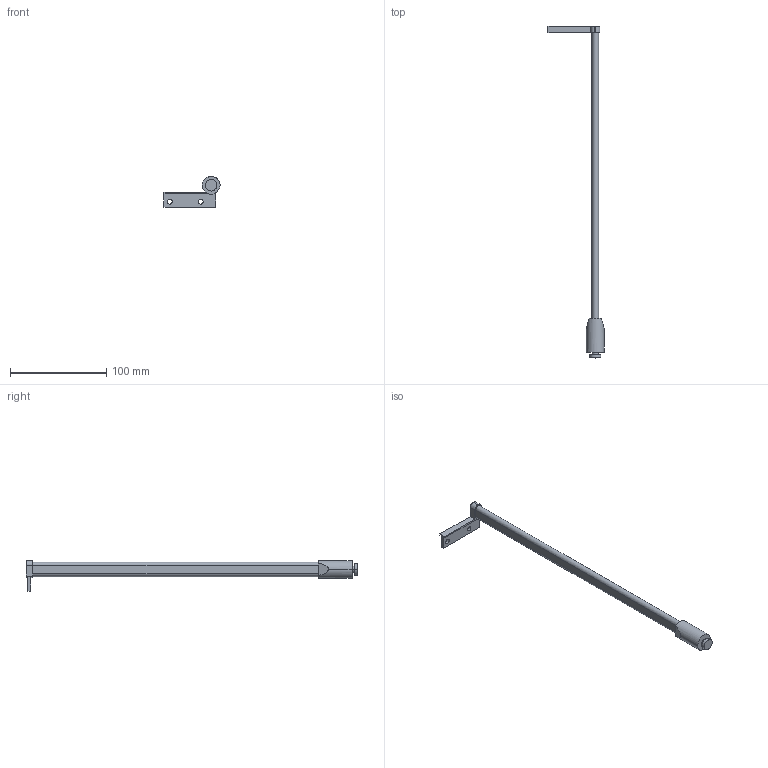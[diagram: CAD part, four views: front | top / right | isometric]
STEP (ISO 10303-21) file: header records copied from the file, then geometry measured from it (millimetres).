
FILE_DESCRIPTION (( 'STEP AP214' ), '1' );
FILE_NAME ('DWD-XP_Reling-Haengeregister_NL350_rechts.step', '2010-10-06T11:19:33', ( 'grass' ), ( '' ), 'SwSTEP 2.0', 'SolidWorks 2010', '' );
FILE_SCHEMA (( 'AUTOMOTIVE_DESIGN' ));
Length unit declared in the file: millimetre
Products named in the file (1): DWD-XP_Reling-Haengeregister_NL350_rechts
Bounding box: 58.1 x 344.3 x 32.15 mm (x, y, z)
Volume: 41150.8 mm3; surface area: 16934.8 mm2
Topology: 1 solids, 1 shells, 34 faces, 84 edges, 56 vertices
Faces by surface type: plane 20, cylinder 14
Entity records: 1058 total; most frequent: CARTESIAN_POINT 187, DIRECTION 178, ORIENTED_EDGE 168, EDGE_CURVE 84, AXIS2_PLACEMENT_3D 63, VERTEX_POINT 56, VECTOR 52, LINE 52
